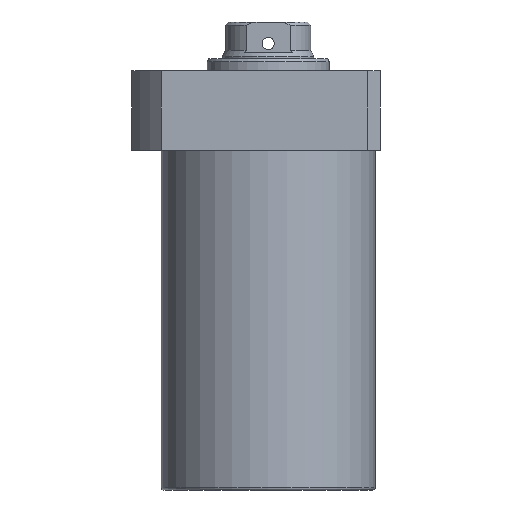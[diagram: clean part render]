
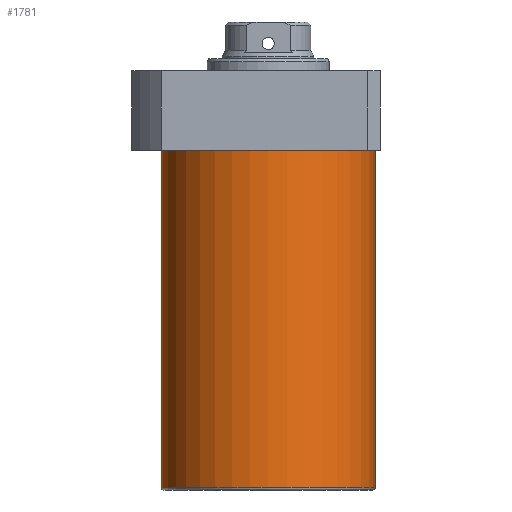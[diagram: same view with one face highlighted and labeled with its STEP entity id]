
A CAD part, front view. The second image highlights one B-rep face of the part: STEP entity #1781.
In plain terms, the highlighted cylindrical face has radius 52.5 mm (diameter 105 mm), a partial arc.
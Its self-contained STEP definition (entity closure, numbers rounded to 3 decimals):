
#131 = DIRECTION ( 'NONE',  ( 0., 0., 1. ) ) ;
#198 = AXIS2_PLACEMENT_3D ( 'NONE', #1890, #663, #1531 ) ;
#217 = CARTESIAN_POINT ( 'NONE',  ( -52.5, 0., -185.5 ) ) ;
#266 = CARTESIAN_POINT ( 'NONE',  ( 0., 0., -185.5 ) ) ;
#270 = DIRECTION ( 'NONE',  ( 0., 0., 1. ) ) ;
#286 = CARTESIAN_POINT ( 'NONE',  ( 52.5, 0., -185.5 ) ) ;
#296 = ORIENTED_EDGE ( 'NONE', *, *, #327, .F. ) ;
#327 = EDGE_CURVE ( 'NONE', #335, #1409, #1110, .T. ) ;
#329 = CIRCLE ( 'NONE', #1792, 52.5 ) ;
#335 = VERTEX_POINT ( 'NONE', #217 ) ;
#371 = DIRECTION ( 'NONE',  ( 0., 0., 1. ) ) ;
#385 = CARTESIAN_POINT ( 'NONE',  ( 52.5, 0., -186.5 ) ) ;
#521 = CARTESIAN_POINT ( 'NONE',  ( -52.5, 0., -19.5 ) ) ;
#663 = DIRECTION ( 'NONE',  ( 0., 0., -1. ) ) ;
#728 = CARTESIAN_POINT ( 'NONE',  ( 52.5, 0., -19.5 ) ) ;
#816 = CARTESIAN_POINT ( 'NONE',  ( 0., 0., -186.5 ) ) ;
#856 = EDGE_LOOP ( 'NONE', ( #296, #1860, #1371, #1247 ) ) ;
#940 = EDGE_CURVE ( 'NONE', #1222, #1133, #953, .T. ) ;
#953 = LINE ( 'NONE', #385, #1604 ) ;
#990 = DIRECTION ( 'NONE',  ( 1., 0., 0. ) ) ;
#1110 = LINE ( 'NONE', #1924, #1663 ) ;
#1133 = VERTEX_POINT ( 'NONE', #728 ) ;
#1222 = VERTEX_POINT ( 'NONE', #286 ) ;
#1247 = ORIENTED_EDGE ( 'NONE', *, *, #1258, .T. ) ;
#1258 = EDGE_CURVE ( 'NONE', #1133, #1409, #1544, .T. ) ;
#1371 = ORIENTED_EDGE ( 'NONE', *, *, #940, .T. ) ;
#1409 = VERTEX_POINT ( 'NONE', #521 ) ;
#1531 = DIRECTION ( 'NONE',  ( 1., 0., 0. ) ) ;
#1544 = CIRCLE ( 'NONE', #198, 52.5 ) ;
#1546 = EDGE_CURVE ( 'NONE', #335, #1222, #329, .T. ) ;
#1558 = AXIS2_PLACEMENT_3D ( 'NONE', #816, #131, #990 ) ;
#1604 = VECTOR ( 'NONE', #2126, 1000. ) ;
#1663 = VECTOR ( 'NONE', #371, 1000. ) ;
#1710 = FACE_OUTER_BOUND ( 'NONE', #856, .T. ) ;
#1781 = ADVANCED_FACE ( 'NONE', ( #1710 ), #1885, .T. ) ;
#1792 = AXIS2_PLACEMENT_3D ( 'NONE', #266, #270, #2135 ) ;
#1860 = ORIENTED_EDGE ( 'NONE', *, *, #1546, .T. ) ;
#1885 = CYLINDRICAL_SURFACE ( 'NONE', #1558, 52.5 ) ;
#1890 = CARTESIAN_POINT ( 'NONE',  ( 0., 0., -19.5 ) ) ;
#1924 = CARTESIAN_POINT ( 'NONE',  ( -52.5, 0., -186.5 ) ) ;
#2126 = DIRECTION ( 'NONE',  ( 0., 0., 1. ) ) ;
#2135 = DIRECTION ( 'NONE',  ( -1., 0., 0. ) ) ;
